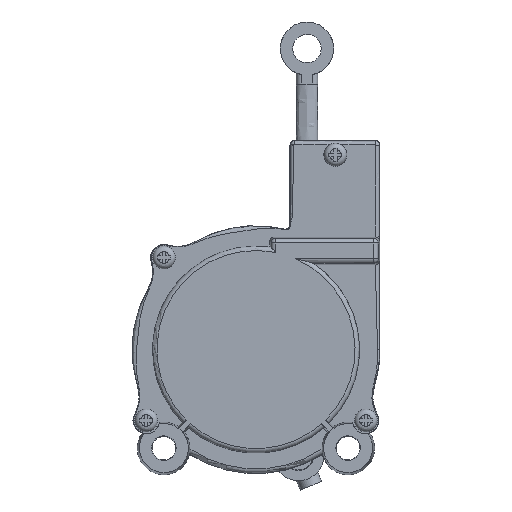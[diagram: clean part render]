
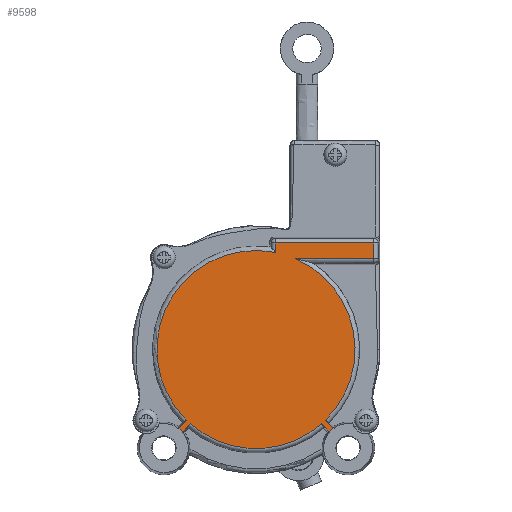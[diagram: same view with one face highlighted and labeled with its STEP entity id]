
A CAD part, top view. The second image highlights one B-rep face of the part: STEP entity #9598.
In plain terms, the highlighted planar face has unit normal (0, 0, 1).
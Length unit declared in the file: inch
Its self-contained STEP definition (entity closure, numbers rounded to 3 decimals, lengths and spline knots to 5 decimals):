
#936=LINE('',#18472,#1395);
#939=LINE('',#18494,#1398);
#948=LINE('',#26049,#1407);
#952=LINE('',#26071,#1411);
#958=LINE('',#26090,#1417);
#959=LINE('',#26094,#1418);
#960=LINE('',#26098,#1419);
#961=LINE('',#26102,#1420);
#1395=VECTOR('',#13038,0.69327);
#1398=VECTOR('',#13045,0.0668);
#1407=VECTOR('',#13164,0.11127);
#1411=VECTOR('',#13172,0.55173);
#1417=VECTOR('',#13194,0.08065);
#1418=VECTOR('',#13197,0.08065);
#1419=VECTOR('',#13200,0.08065);
#1420=VECTOR('',#13203,0.08065);
#2103=FACE_OUTER_BOUND('',#2662,.T.);
#2662=EDGE_LOOP('',(#8307,#8308,#8309,#8310,#8311,#8312,#8313,#8314,#8315,
#8316,#8317,#8318,#8319));
#3312=CIRCLE('',#10687,0.699);
#3313=CIRCLE('',#10688,0.17325);
#3314=CIRCLE('',#10689,0.699);
#3315=CIRCLE('',#10690,0.17325);
#3316=CIRCLE('',#10691,0.699);
#4204=VERTEX_POINT('',#18467);
#4205=VERTEX_POINT('',#18471);
#4208=VERTEX_POINT('',#18479);
#4279=VERTEX_POINT('',#26040);
#4281=VERTEX_POINT('',#26054);
#4286=VERTEX_POINT('',#26087);
#4287=VERTEX_POINT('',#26089);
#4288=VERTEX_POINT('',#26091);
#4289=VERTEX_POINT('',#26093);
#4290=VERTEX_POINT('',#26095);
#4291=VERTEX_POINT('',#26097);
#4292=VERTEX_POINT('',#26099);
#4293=VERTEX_POINT('',#26101);
#5548=EDGE_CURVE('',#4204,#4205,#936,.T.);
#5553=EDGE_CURVE('',#4208,#4204,#939,.T.);
#5653=EDGE_CURVE('',#4205,#4279,#948,.T.);
#5658=EDGE_CURVE('',#4279,#4281,#952,.T.);
#5666=EDGE_CURVE('',#4286,#4208,#3312,.T.);
#5667=EDGE_CURVE('',#4287,#4286,#958,.T.);
#5668=EDGE_CURVE('',#4288,#4287,#3313,.T.);
#5669=EDGE_CURVE('',#4289,#4288,#959,.T.);
#5670=EDGE_CURVE('',#4290,#4289,#3314,.T.);
#5671=EDGE_CURVE('',#4291,#4290,#960,.T.);
#5672=EDGE_CURVE('',#4292,#4291,#3315,.T.);
#5673=EDGE_CURVE('',#4293,#4292,#961,.T.);
#5674=EDGE_CURVE('',#4281,#4293,#3316,.T.);
#8307=ORIENTED_EDGE('',*,*,#5666,.F.);
#8308=ORIENTED_EDGE('',*,*,#5667,.F.);
#8309=ORIENTED_EDGE('',*,*,#5668,.F.);
#8310=ORIENTED_EDGE('',*,*,#5669,.F.);
#8311=ORIENTED_EDGE('',*,*,#5670,.F.);
#8312=ORIENTED_EDGE('',*,*,#5671,.F.);
#8313=ORIENTED_EDGE('',*,*,#5672,.F.);
#8314=ORIENTED_EDGE('',*,*,#5673,.F.);
#8315=ORIENTED_EDGE('',*,*,#5674,.F.);
#8316=ORIENTED_EDGE('',*,*,#5658,.F.);
#8317=ORIENTED_EDGE('',*,*,#5653,.F.);
#8318=ORIENTED_EDGE('',*,*,#5548,.F.);
#8319=ORIENTED_EDGE('',*,*,#5553,.F.);
#8991=PLANE('',#10686);
#9598=ADVANCED_FACE('',(#2103),#8991,.T.);
#10686=AXIS2_PLACEMENT_3D('',#26086,#13190,#13191);
#10687=AXIS2_PLACEMENT_3D('',#26088,#13192,#13193);
#10688=AXIS2_PLACEMENT_3D('',#26092,#13195,#13196);
#10689=AXIS2_PLACEMENT_3D('',#26096,#13198,#13199);
#10690=AXIS2_PLACEMENT_3D('',#26100,#13201,#13202);
#10691=AXIS2_PLACEMENT_3D('',#26103,#13204,#13205);
#13038=DIRECTION('',(1.,0.,0.));
#13045=DIRECTION('',(0.,1.,0.));
#13164=DIRECTION('',(0.,-1.,0.));
#13172=DIRECTION('',(-1.,0.,0.));
#13190=DIRECTION('center_axis',(0.,0.,1.));
#13191=DIRECTION('ref_axis',(1.,0.,0.));
#13192=DIRECTION('center_axis',(0.,0.,-1.));
#13193=DIRECTION('ref_axis',(-1.,0.,0.));
#13194=DIRECTION('',(0.683,0.73,0.));
#13195=DIRECTION('center_axis',(0.,0.,1.));
#13196=DIRECTION('ref_axis',(-0.822,0.569,0.));
#13197=DIRECTION('',(-0.683,-0.73,0.));
#13198=DIRECTION('center_axis',(0.,0.,-1.));
#13199=DIRECTION('ref_axis',(-1.,0.,0.));
#13200=DIRECTION('',(-0.683,0.73,0.));
#13201=DIRECTION('center_axis',(0.,0.,1.));
#13202=DIRECTION('ref_axis',(-0.972,-0.237,0.));
#13203=DIRECTION('',(0.683,-0.73,0.));
#13204=DIRECTION('center_axis',(0.,0.,-1.));
#13205=DIRECTION('ref_axis',(-1.,0.,0.));
#18467=CARTESIAN_POINT('',(0.13755,0.75213,0.408));
#18471=CARTESIAN_POINT('',(0.83082,0.75213,0.408));
#18472=CARTESIAN_POINT('',(0.13755,0.75213,0.408));
#18479=CARTESIAN_POINT('',(0.13755,0.68533,0.408));
#18494=CARTESIAN_POINT('',(0.13755,0.68533,0.408));
#26040=CARTESIAN_POINT('',(0.83082,0.64087,0.408));
#26049=CARTESIAN_POINT('',(0.83082,0.75213,0.408));
#26054=CARTESIAN_POINT('',(0.27909,0.64087,0.408));
#26071=CARTESIAN_POINT('',(0.83082,0.64087,0.408));
#26086=CARTESIAN_POINT('Origin',(0.,0.,
0.408));
#26087=CARTESIAN_POINT('',(-0.49121,-0.4973,0.408));
#26088=CARTESIAN_POINT('Origin',(0.,0.,
0.408));
#26089=CARTESIAN_POINT('',(-0.5463,-0.55621,0.408));
#26090=CARTESIAN_POINT('',(-0.5463,-0.55621,0.408));
#26091=CARTESIAN_POINT('',(-0.51845,-0.58226,0.408));
#26092=CARTESIAN_POINT('Origin',(-0.65,-0.695,0.408));
#26093=CARTESIAN_POINT('',(-0.46336,-0.52335,0.408));
#26094=CARTESIAN_POINT('',(-0.46336,-0.52335,0.408));
#26095=CARTESIAN_POINT('',(0.46336,-0.52335,0.408));
#26096=CARTESIAN_POINT('Origin',(0.,0.,
0.408));
#26097=CARTESIAN_POINT('',(0.51845,-0.58226,0.408));
#26098=CARTESIAN_POINT('',(0.51845,-0.58226,0.408));
#26099=CARTESIAN_POINT('',(0.5463,-0.55621,0.408));
#26100=CARTESIAN_POINT('Origin',(0.65,-0.695,0.408));
#26101=CARTESIAN_POINT('',(0.49121,-0.4973,0.408));
#26102=CARTESIAN_POINT('',(0.49121,-0.4973,0.408));
#26103=CARTESIAN_POINT('Origin',(0.,0.,
0.408));
